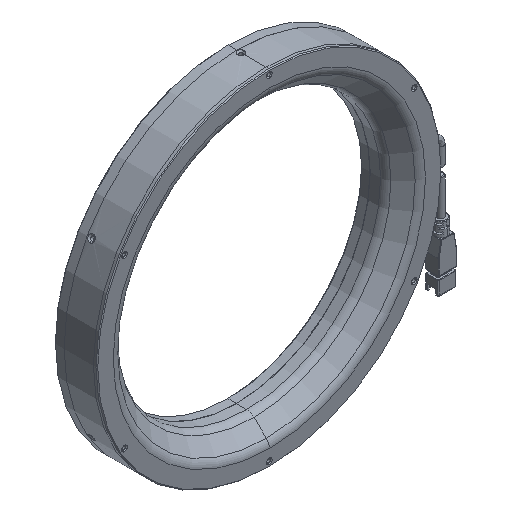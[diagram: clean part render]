
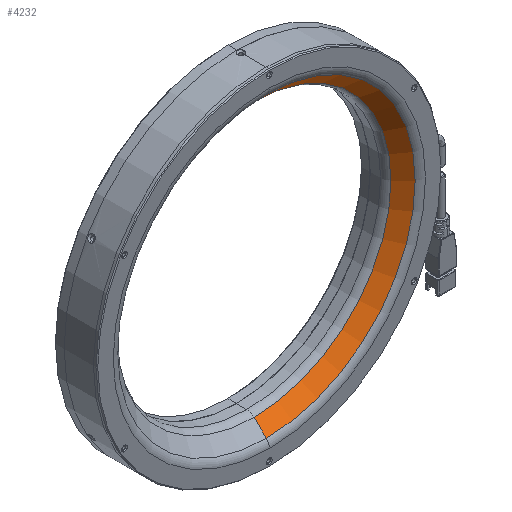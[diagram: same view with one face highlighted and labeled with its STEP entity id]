
A CAD part, isometric view. The second image highlights one B-rep face of the part: STEP entity #4232.
In plain terms, the highlighted conical face has half-angle 45 degrees and reference radius 79.257 mm.
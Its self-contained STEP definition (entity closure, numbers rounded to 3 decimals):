
#44 = DIRECTION ( 'NONE',  ( 0., -1., 0. ) ) ;
#735 = EDGE_CURVE ( 'NONE', #6621, #7638, #8824, .T. ) ;
#1514 = DIRECTION ( 'NONE',  ( 0., -0.707, -0.707 ) ) ;
#1746 = AXIS2_PLACEMENT_3D ( 'NONE', #9144, #3671, #6066 ) ;
#1750 = FACE_OUTER_BOUND ( 'NONE', #4205, .T. ) ;
#2052 = VECTOR ( 'NONE', #1514, 1000. ) ;
#2067 = CARTESIAN_POINT ( 'NONE',  ( 0., -16.221, 79.257 ) ) ;
#2091 = DIRECTION ( 'NONE',  ( 0., -0.707, 0.707 ) ) ;
#2512 = CARTESIAN_POINT ( 'NONE',  ( 0., -23.243, -86.279 ) ) ;
#2669 = EDGE_CURVE ( 'NONE', #6621, #6695, #8899, .T. ) ;
#2948 = CARTESIAN_POINT ( 'NONE',  ( 0., -23.243, 0. ) ) ;
#3671 = DIRECTION ( 'NONE',  ( 0., -1., 0. ) ) ;
#3717 = DIRECTION ( 'NONE',  ( 0., -1., 0. ) ) ;
#4195 = ORIENTED_EDGE ( 'NONE', *, *, #2669, .T. ) ;
#4205 = EDGE_LOOP ( 'NONE', ( #9642, #8220, #4195, #5221 ) ) ;
#4232 = ADVANCED_FACE ( 'NONE', ( #1750 ), #5277, .F. ) ;
#4390 = AXIS2_PLACEMENT_3D ( 'NONE', #2948, #3717, #4586 ) ;
#4459 = LINE ( 'NONE', #7657, #6701 ) ;
#4586 = DIRECTION ( 'NONE',  ( 0., 0., -1. ) ) ;
#4854 = CARTESIAN_POINT ( 'NONE',  ( 0., -16.221, 0. ) ) ;
#5028 = DIRECTION ( 'NONE',  ( 0., 0., -1. ) ) ;
#5221 = ORIENTED_EDGE ( 'NONE', *, *, #5476, .T. ) ;
#5277 = CONICAL_SURFACE ( 'NONE', #1746, 79.257, 0.785 ) ;
#5476 = EDGE_CURVE ( 'NONE', #6695, #9091, #10061, .T. ) ;
#5555 = CARTESIAN_POINT ( 'NONE',  ( 0., -16.221, -79.257 ) ) ;
#5668 = AXIS2_PLACEMENT_3D ( 'NONE', #4854, #44, #5028 ) ;
#5988 = CARTESIAN_POINT ( 'NONE',  ( 0., -23.243, 86.279 ) ) ;
#6066 = DIRECTION ( 'NONE',  ( 0., 0., -1. ) ) ;
#6508 = EDGE_CURVE ( 'NONE', #7638, #9091, #4459, .T. ) ;
#6621 = VERTEX_POINT ( 'NONE', #5555 ) ;
#6695 = VERTEX_POINT ( 'NONE', #2512 ) ;
#6701 = VECTOR ( 'NONE', #2091, 1000. ) ;
#7638 = VERTEX_POINT ( 'NONE', #2067 ) ;
#7657 = CARTESIAN_POINT ( 'NONE',  ( 0., -16.221, 79.257 ) ) ;
#8220 = ORIENTED_EDGE ( 'NONE', *, *, #735, .F. ) ;
#8824 = CIRCLE ( 'NONE', #5668, 79.257 ) ;
#8899 = LINE ( 'NONE', #9363, #2052 ) ;
#9091 = VERTEX_POINT ( 'NONE', #5988 ) ;
#9144 = CARTESIAN_POINT ( 'NONE',  ( 0., -16.221, 0. ) ) ;
#9363 = CARTESIAN_POINT ( 'NONE',  ( 0., -16.221, -79.257 ) ) ;
#9642 = ORIENTED_EDGE ( 'NONE', *, *, #6508, .F. ) ;
#10061 = CIRCLE ( 'NONE', #4390, 86.279 ) ;
